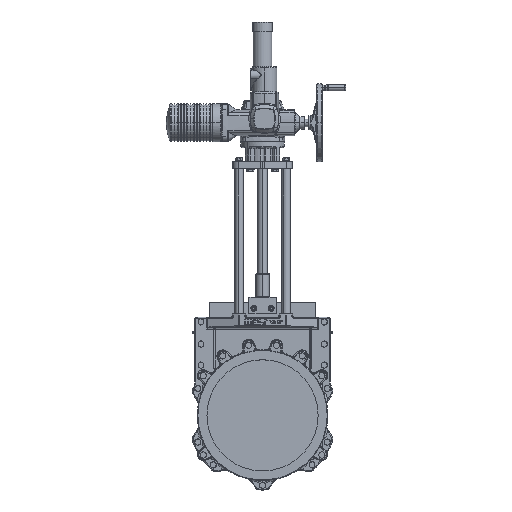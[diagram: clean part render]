
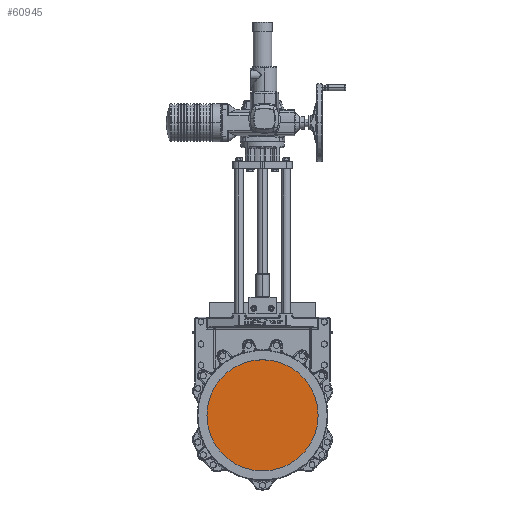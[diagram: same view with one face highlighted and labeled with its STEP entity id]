
A CAD part, top view. The second image highlights one B-rep face of the part: STEP entity #60945.
In plain terms, the highlighted planar face has unit normal (0, 0, 1).
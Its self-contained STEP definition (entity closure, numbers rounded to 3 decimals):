
#11261 = ORIENTED_EDGE ( 'NONE', *, *, #78809, .F. ) ;
#11370 = DIRECTION ( 'NONE',  ( -1., 0., 0. ) ) ;
#20916 = PLANE ( 'NONE',  #47234 ) ;
#23249 = AXIS2_PLACEMENT_3D ( 'NONE', #165918, #80215, #180337 ) ;
#27359 = FACE_OUTER_BOUND ( 'NONE', #157098, .T. ) ;
#44792 = VERTEX_POINT ( 'NONE', #116356 ) ;
#47234 = AXIS2_PLACEMENT_3D ( 'NONE', #183091, #97338, #11370 ) ;
#60945 = ADVANCED_FACE ( 'NONE', ( #27359 ), #20916, .F. ) ;
#72262 = DIRECTION ( 'NONE',  ( 0., 0., -1. ) ) ;
#78809 = EDGE_CURVE ( 'NONE', #100928, #44792, #81426, .T. ) ;
#80215 = DIRECTION ( 'NONE',  ( 0., 0., -1. ) ) ;
#81426 = CIRCLE ( 'NONE', #23249, 225. ) ;
#81730 = AXIS2_PLACEMENT_3D ( 'NONE', #158006, #72262, #172394 ) ;
#97338 = DIRECTION ( 'NONE',  ( 0., 0., -1. ) ) ;
#100928 = VERTEX_POINT ( 'NONE', #116716 ) ;
#116356 = CARTESIAN_POINT ( 'NONE',  ( 225., 0., -0.25 ) ) ;
#116716 = CARTESIAN_POINT ( 'NONE',  ( -225., 0., -0.25 ) ) ;
#151720 = CIRCLE ( 'NONE', #81730, 225. ) ;
#155773 = EDGE_CURVE ( 'NONE', #44792, #100928, #151720, .T. ) ;
#157098 = EDGE_LOOP ( 'NONE', ( #166924, #11261 ) ) ;
#158006 = CARTESIAN_POINT ( 'NONE',  ( 0., 0., -0.25 ) ) ;
#165918 = CARTESIAN_POINT ( 'NONE',  ( 0., 0., -0.25 ) ) ;
#166924 = ORIENTED_EDGE ( 'NONE', *, *, #155773, .F. ) ;
#172394 = DIRECTION ( 'NONE',  ( 0., 1., 0. ) ) ;
#180337 = DIRECTION ( 'NONE',  ( 0., 1., 0. ) ) ;
#183091 = CARTESIAN_POINT ( 'NONE',  ( 0., 120., -0.25 ) ) ;
